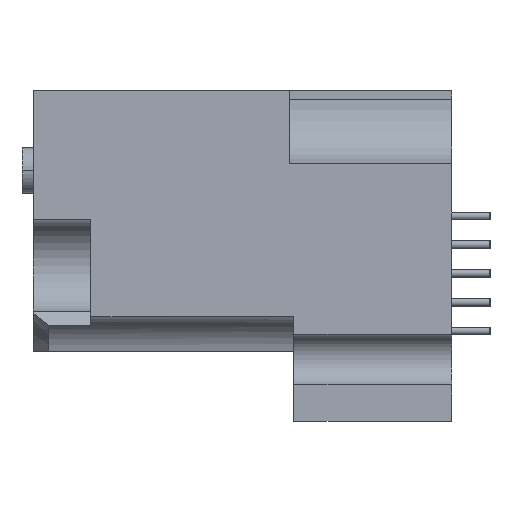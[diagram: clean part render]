
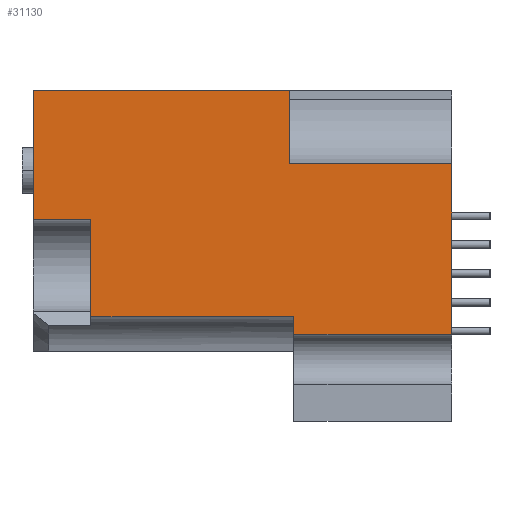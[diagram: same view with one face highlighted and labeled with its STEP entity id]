
A CAD part, left-side view. The second image highlights one B-rep face of the part: STEP entity #31130.
In plain terms, the highlighted planar face has unit normal (-1, 0, 0).
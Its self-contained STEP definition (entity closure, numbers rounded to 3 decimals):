
#8214 = VERTEX_POINT ( 'NONE', #31981 ) ;
#8338 = ORIENTED_EDGE ( 'NONE', *, *, #8378, .T. ) ;
#8378 = EDGE_CURVE ( 'NONE', #8446, #8214, #32315, .T. ) ;
#8387 = EDGE_LOOP ( 'NONE', ( #8338, #8456, #31365, #31132, #31153, #31373, #31369, #31154, #31136, #31157 ) ) ;
#8446 = VERTEX_POINT ( 'NONE', #32383 ) ;
#8456 = ORIENTED_EDGE ( 'NONE', *, *, #31143, .F. ) ;
#21332 = CARTESIAN_POINT ( 'NONE',  ( -5.9, 8.5, -1.487 ) ) ;
#21335 = CARTESIAN_POINT ( 'NONE',  ( -5.9, 8.025, 3.326 ) ) ;
#21341 = LINE ( 'NONE', #21335, #21933 ) ;
#21342 = DIRECTION ( 'NONE',  ( 0., 0., 1. ) ) ;
#21355 = LINE ( 'NONE', #21332, #21385 ) ;
#21385 = VECTOR ( 'NONE', #21342, 1000. ) ;
#21912 = DIRECTION ( 'NONE',  ( 0., 1., 0. ) ) ;
#21933 = VECTOR ( 'NONE', #21912, 1000. ) ;
#22417 = CARTESIAN_POINT ( 'NONE',  ( -5.9, 0., 3.326 ) ) ;
#23084 = CARTESIAN_POINT ( 'NONE',  ( -5.9, 21.85, 0.4 ) ) ;
#23147 = DIRECTION ( 'NONE',  ( 0., -1., 0. ) ) ;
#23148 = VECTOR ( 'NONE', #23147, 1000. ) ;
#23153 = CARTESIAN_POINT ( 'NONE',  ( -5.9, 8.25, -6.9 ) ) ;
#23154 = LINE ( 'NONE', #23153, #23278 ) ;
#23170 = CARTESIAN_POINT ( 'NONE',  ( -5.9, 14.65, -4.652 ) ) ;
#23171 = LINE ( 'NONE', #23170, #23148 ) ;
#23173 = DIRECTION ( 'NONE',  ( 0., 0., 1. ) ) ;
#23174 = VECTOR ( 'NONE', #23173, 1000. ) ;
#23178 = CARTESIAN_POINT ( 'NONE',  ( -5.9, 18.85, 0.4 ) ) ;
#23180 = DIRECTION ( 'NONE',  ( 0., -1., 0. ) ) ;
#23182 = DIRECTION ( 'NONE',  ( -1., 0., 0. ) ) ;
#23184 = CARTESIAN_POINT ( 'NONE',  ( -5.9, 21.95, -10.223 ) ) ;
#23186 = AXIS2_PLACEMENT_3D ( 'NONE', #23184, #23182, #23180 ) ;
#23190 = CARTESIAN_POINT ( 'NONE',  ( -5.9, 21.85, 0.35 ) ) ;
#23191 = LINE ( 'NONE', #23190, #23174 ) ;
#23195 = FACE_OUTER_BOUND ( 'NONE', #8387, .T. ) ;
#23197 = CARTESIAN_POINT ( 'NONE',  ( -5.9, 8.5, 3.326 ) ) ;
#23208 = PLANE ( 'NONE',  #23186 ) ;
#23233 = VECTOR ( 'NONE', #23239, 1000. ) ;
#23239 = DIRECTION ( 'NONE',  ( 0., 0., -1. ) ) ;
#23241 = CARTESIAN_POINT ( 'NONE',  ( -5.9, 18.85, -1.487 ) ) ;
#23243 = CARTESIAN_POINT ( 'NONE',  ( -5.9, 8.025, 0.4 ) ) ;
#23244 = LINE ( 'NONE', #23243, #23350 ) ;
#23261 = LINE ( 'NONE', #23241, #23233 ) ;
#23265 = DIRECTION ( 'NONE',  ( 0., 0., -1. ) ) ;
#23266 = VECTOR ( 'NONE', #23265, 1000. ) ;
#23267 = CARTESIAN_POINT ( 'NONE',  ( -5.9, 0., -6.45 ) ) ;
#23275 = LINE ( 'NONE', #23267, #23266 ) ;
#23277 = DIRECTION ( 'NONE',  ( 0., 0., 1. ) ) ;
#23278 = VECTOR ( 'NONE', #23277, 1000. ) ;
#23282 = CARTESIAN_POINT ( 'NONE',  ( -5.9, 8.25, -4.652 ) ) ;
#23349 = DIRECTION ( 'NONE',  ( 0., -1., 0. ) ) ;
#23350 = VECTOR ( 'NONE', #23349, 1000. ) ;
#23989 = CARTESIAN_POINT ( 'NONE',  ( -5.9, 18.85, -4.652 ) ) ;
#24262 = CARTESIAN_POINT ( 'NONE',  ( -5.9, 8.5, 7.15 ) ) ;
#24301 = CARTESIAN_POINT ( 'NONE',  ( -5.9, 21.85, 7.15 ) ) ;
#24378 = DIRECTION ( 'NONE',  ( 0., -1., 0. ) ) ;
#24380 = VECTOR ( 'NONE', #24378, 1000. ) ;
#24381 = CARTESIAN_POINT ( 'NONE',  ( -5.9, 10.925, 7.15 ) ) ;
#24383 = LINE ( 'NONE', #24381, #24380 ) ;
#31125 = VERTEX_POINT ( 'NONE', #23084 ) ;
#31126 = EDGE_CURVE ( 'NONE', #31133, #31411, #21355, .T. ) ;
#31127 = VERTEX_POINT ( 'NONE', #22417 ) ;
#31128 = EDGE_CURVE ( 'NONE', #31127, #31133, #21341, .T. ) ;
#31130 = ADVANCED_FACE ( 'NONE', ( #23195 ), #23208, .T. ) ;
#31131 = EDGE_CURVE ( 'NONE', #31125, #31430, #23191, .T. ) ;
#31132 = ORIENTED_EDGE ( 'NONE', *, *, #31126, .T. ) ;
#31133 = VERTEX_POINT ( 'NONE', #23197 ) ;
#31136 = ORIENTED_EDGE ( 'NONE', *, *, #31137, .T. ) ;
#31137 = EDGE_CURVE ( 'NONE', #31366, #31142, #23171, .T. ) ;
#31140 = EDGE_CURVE ( 'NONE', #8446, #31142, #23154, .T. ) ;
#31142 = VERTEX_POINT ( 'NONE', #23282 ) ;
#31143 = EDGE_CURVE ( 'NONE', #31127, #8214, #23275, .T. ) ;
#31150 = VERTEX_POINT ( 'NONE', #23178 ) ;
#31151 = EDGE_CURVE ( 'NONE', #31150, #31366, #23261, .T. ) ;
#31153 = ORIENTED_EDGE ( 'NONE', *, *, #31437, .F. ) ;
#31154 = ORIENTED_EDGE ( 'NONE', *, *, #31151, .T. ) ;
#31155 = EDGE_CURVE ( 'NONE', #31125, #31150, #23244, .T. ) ;
#31157 = ORIENTED_EDGE ( 'NONE', *, *, #31140, .F. ) ;
#31365 = ORIENTED_EDGE ( 'NONE', *, *, #31128, .T. ) ;
#31366 = VERTEX_POINT ( 'NONE', #23989 ) ;
#31369 = ORIENTED_EDGE ( 'NONE', *, *, #31155, .T. ) ;
#31373 = ORIENTED_EDGE ( 'NONE', *, *, #31131, .F. ) ;
#31411 = VERTEX_POINT ( 'NONE', #24262 ) ;
#31430 = VERTEX_POINT ( 'NONE', #24301 ) ;
#31437 = EDGE_CURVE ( 'NONE', #31430, #31411, #24383, .T. ) ;
#31981 = CARTESIAN_POINT ( 'NONE',  ( -5.9, 0., -5.579 ) ) ;
#32312 = DIRECTION ( 'NONE',  ( 0., -1., 0. ) ) ;
#32313 = VECTOR ( 'NONE', #32312, 1000. ) ;
#32314 = CARTESIAN_POINT ( 'NONE',  ( -5.9, 8.025, -5.579 ) ) ;
#32315 = LINE ( 'NONE', #32314, #32313 ) ;
#32383 = CARTESIAN_POINT ( 'NONE',  ( -5.9, 8.25, -5.579 ) ) ;
